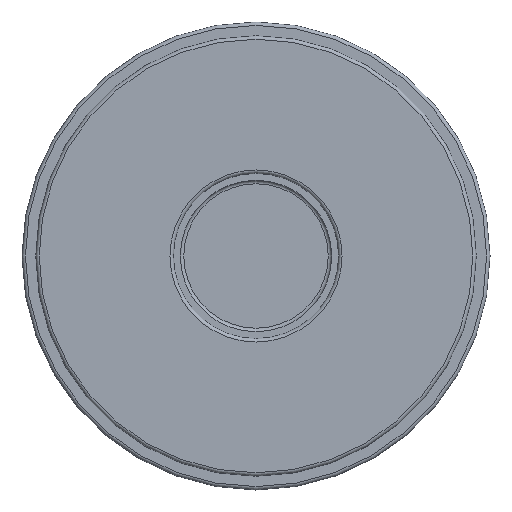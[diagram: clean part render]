
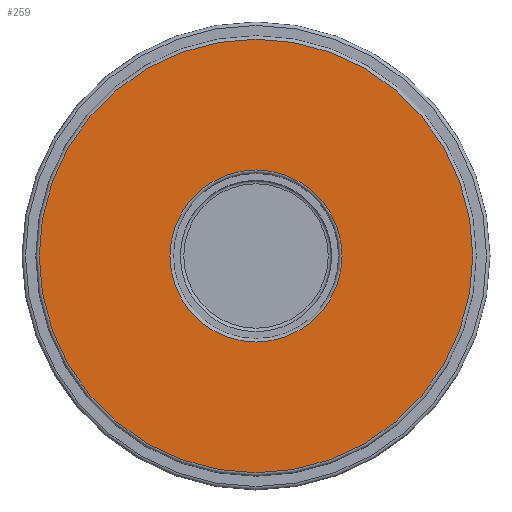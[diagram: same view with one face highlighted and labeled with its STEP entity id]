
A CAD part, front view. The second image highlights one B-rep face of the part: STEP entity #259.
In plain terms, the highlighted planar face has unit normal (0, -1, 0).
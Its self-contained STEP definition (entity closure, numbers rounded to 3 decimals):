
#259=ADVANCED_FACE('',(#5466,#5468),#5470,.T.);
#5466=FACE_BOUND('',#5467,.T.);
#5467=EDGE_LOOP('',(#6295,#6296));
#5468=FACE_BOUND('',#5469,.T.);
#5469=EDGE_LOOP('',(#6297,#6298));
#5470=PLANE('',#5471);
#5471=AXIS2_PLACEMENT_3D('',#5472,#5473,#5474);
#5472=CARTESIAN_POINT('',(0.,-14.,0.));
#5473=DIRECTION('',(0.,-1.,0.));
#5474=DIRECTION('',(0.,0.,1.));
#6295=ORIENTED_EDGE('',*,*,#6686,.F.);
#6296=ORIENTED_EDGE('',*,*,#6685,.F.);
#6297=ORIENTED_EDGE('',*,*,#6687,.T.);
#6298=ORIENTED_EDGE('',*,*,#6688,.T.);
#6685=EDGE_CURVE('',#7252,#7253,#7254,.T.);
#6686=EDGE_CURVE('',#7253,#7252,#7255,.T.);
#6687=EDGE_CURVE('',#7256,#7257,#7258,.T.);
#6688=EDGE_CURVE('',#7257,#7256,#7259,.T.);
#7252=VERTEX_POINT('',#11108);
#7253=VERTEX_POINT('',#11109);
#7254=CIRCLE('',#11110,31.5);
#7255=CIRCLE('',#11114,31.5);
#7256=VERTEX_POINT('',#11118);
#7257=VERTEX_POINT('',#11119);
#7258=CIRCLE('',#11120,12.5);
#7259=CIRCLE('',#11124,12.5);
#11108=CARTESIAN_POINT('',(0.,-14.,31.5));
#11109=CARTESIAN_POINT('',(0.,-14.,-31.5));
#11110=AXIS2_PLACEMENT_3D('',#11111,#11112,#11113);
#11111=CARTESIAN_POINT('',(0.,-14.,0.));
#11112=DIRECTION('',(0.,1.,0.));
#11113=DIRECTION('',(0.,0.,1.));
#11114=AXIS2_PLACEMENT_3D('',#11115,#11116,#11117);
#11115=CARTESIAN_POINT('',(0.,-14.,0.));
#11116=DIRECTION('',(0.,1.,0.));
#11117=DIRECTION('',(0.,0.,-1.));
#11118=CARTESIAN_POINT('',(0.,-14.,12.5));
#11119=CARTESIAN_POINT('',(0.,-14.,-12.5));
#11120=AXIS2_PLACEMENT_3D('',#11121,#11122,#11123);
#11121=CARTESIAN_POINT('',(0.,-14.,0.));
#11122=DIRECTION('',(0.,1.,0.));
#11123=DIRECTION('',(0.,0.,1.));
#11124=AXIS2_PLACEMENT_3D('',#11125,#11126,#11127);
#11125=CARTESIAN_POINT('',(0.,-14.,0.));
#11126=DIRECTION('',(0.,1.,0.));
#11127=DIRECTION('',(0.,0.,-1.));
